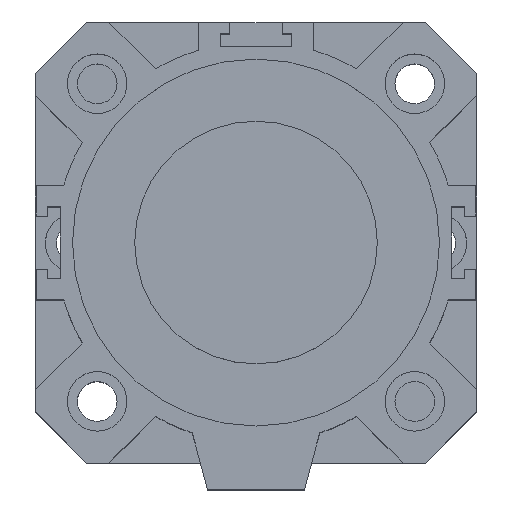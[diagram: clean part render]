
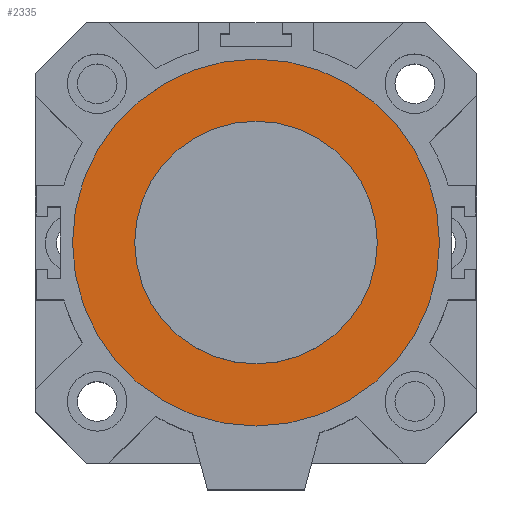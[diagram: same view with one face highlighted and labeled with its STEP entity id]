
A CAD part, top view. The second image highlights one B-rep face of the part: STEP entity #2335.
In plain terms, the highlighted planar face has unit normal (0, 0, 1).
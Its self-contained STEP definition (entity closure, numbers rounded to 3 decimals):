
#449=PLANE('',#2486);
#547=FACE_BOUND('',#766,.T.);
#548=FACE_BOUND('',#767,.T.);
#766=EDGE_LOOP('',(#1592));
#767=EDGE_LOOP('',(#1593));
#977=CIRCLE('',#2481,27.5);
#979=CIRCLE('',#2484,41.6);
#1065=VERTEX_POINT('',#3388);
#1067=VERTEX_POINT('',#3393);
#1287=EDGE_CURVE('',#1065,#1065,#977,.T.);
#1289=EDGE_CURVE('',#1067,#1067,#979,.T.);
#1592=ORIENTED_EDGE('',*,*,#1287,.F.);
#1593=ORIENTED_EDGE('',*,*,#1289,.F.);
#2335=ADVANCED_FACE('',(#547,#548),#449,.T.);
#2481=AXIS2_PLACEMENT_3D('',#3389,#2720,#2721);
#2484=AXIS2_PLACEMENT_3D('',#3394,#2726,#2727);
#2486=AXIS2_PLACEMENT_3D('',#3397,#2730,#2731);
#2720=DIRECTION('center_axis',(0.,0.,1.));
#2721=DIRECTION('ref_axis',(-1.,0.,0.));
#2726=DIRECTION('center_axis',(0.,0.,-1.));
#2727=DIRECTION('ref_axis',(-1.,0.,0.));
#2730=DIRECTION('center_axis',(0.,0.,1.));
#2731=DIRECTION('ref_axis',(1.,0.,0.));
#3388=CARTESIAN_POINT('',(27.5,0.,27.));
#3389=CARTESIAN_POINT('Origin',(0.,0.,27.));
#3393=CARTESIAN_POINT('',(41.6,0.,27.));
#3394=CARTESIAN_POINT('Origin',(0.,0.,27.));
#3397=CARTESIAN_POINT('Origin',(0.,0.,
27.));
